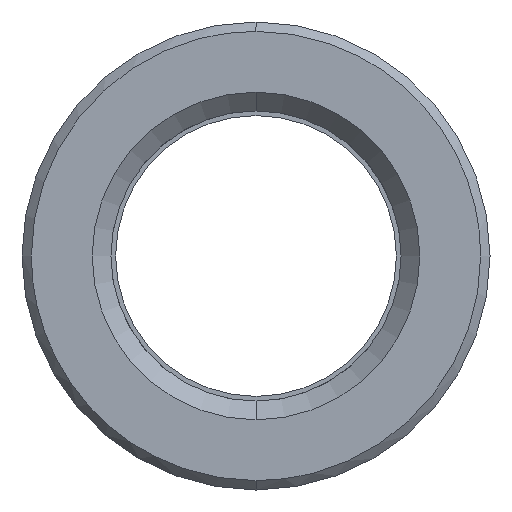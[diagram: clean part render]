
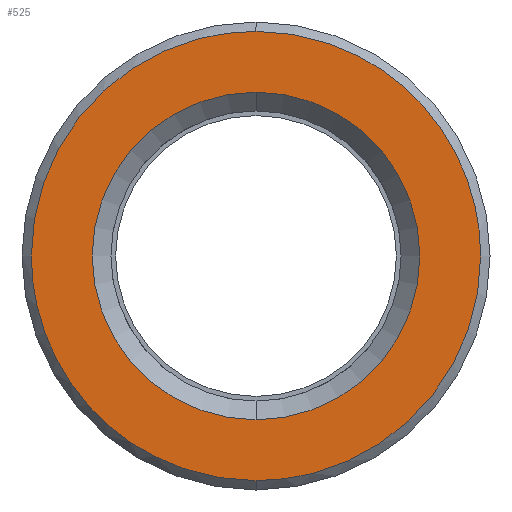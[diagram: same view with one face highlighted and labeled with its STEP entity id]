
A CAD part, left-side view. The second image highlights one B-rep face of the part: STEP entity #525.
In plain terms, the highlighted planar face has unit normal (-1, 0, 0).
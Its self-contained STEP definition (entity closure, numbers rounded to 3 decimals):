
#305=CARTESIAN_POINT('Axis2P3D Location',(0.,0.,0.)) ;
#309=CARTESIAN_POINT('Vertex',(0.,8.75,0.)) ;
#311=CARTESIAN_POINT('Vertex',(0.,0.,8.75)) ;
#314=CARTESIAN_POINT('Axis2P3D Location',(0.,0.,0.)) ;
#318=CARTESIAN_POINT('Vertex',(0.,0.,-8.75)) ;
#345=CARTESIAN_POINT('Axis2P3D Location',(0.,0.,0.)) ;
#349=CARTESIAN_POINT('Vertex',(0.,-8.75,0.)) ;
#352=CARTESIAN_POINT('Axis2P3D Location',(0.,0.,0.)) ;
#432=CARTESIAN_POINT('Axis2P3D Location',(0.,12.,0.)) ;
#438=CARTESIAN_POINT('Control Point',(0.,0.,-12.)) ;
#439=CARTESIAN_POINT('Control Point',(0.,0.982,-12.)) ;
#440=CARTESIAN_POINT('Control Point',(0.,1.964,-11.9)) ;
#441=CARTESIAN_POINT('Control Point',(0.,2.932,-11.699)) ;
#442=CARTESIAN_POINT('Control Point',(0.,5.011,-11.039)) ;
#443=CARTESIAN_POINT('Control Point',(0.,6.895,-9.93)) ;
#444=CARTESIAN_POINT('Control Point',(0.,7.845,-9.197)) ;
#445=CARTESIAN_POINT('Control Point',(0.,9.546,-7.512)) ;
#446=CARTESIAN_POINT('Control Point',(0.,10.784,-5.463)) ;
#447=CARTESIAN_POINT('Control Point',(0.,11.273,-4.367)) ;
#448=CARTESIAN_POINT('Control Point',(0.,11.741,-2.824)) ;
#449=CARTESIAN_POINT('Control Point',(0.,11.947,-1.236)) ;
#450=CARTESIAN_POINT('Control Point',(0.,11.982,-0.824)) ;
#451=CARTESIAN_POINT('Control Point',(0.,12.,-0.412)) ;
#452=CARTESIAN_POINT('Control Point',(0.,12.,0.)) ;
#453=CARTESIAN_POINT('Vertex',(0.,0.,-12.)) ;
#455=CARTESIAN_POINT('Vertex',(0.,12.,0.)) ;
#459=CARTESIAN_POINT('Control Point',(0.,-12.,0.)) ;
#460=CARTESIAN_POINT('Control Point',(0.,-12.,-1.188)) ;
#461=CARTESIAN_POINT('Control Point',(0.,-11.853,-2.376)) ;
#462=CARTESIAN_POINT('Control Point',(0.,-11.559,-3.54)) ;
#463=CARTESIAN_POINT('Control Point',(0.,-10.689,-5.77)) ;
#464=CARTESIAN_POINT('Control Point',(0.,-9.302,-7.721)) ;
#465=CARTESIAN_POINT('Control Point',(0.,-8.49,-8.605)) ;
#466=CARTESIAN_POINT('Control Point',(0.,-6.665,-10.155)) ;
#467=CARTESIAN_POINT('Control Point',(0.,-4.518,-11.213)) ;
#468=CARTESIAN_POINT('Control Point',(0.,-3.384,-11.606)) ;
#469=CARTESIAN_POINT('Control Point',(0.,-2.01,-11.897)) ;
#470=CARTESIAN_POINT('Control Point',(0.,-0.618,-11.987)) ;
#471=CARTESIAN_POINT('Control Point',(0.,-0.412,-11.996)) ;
#472=CARTESIAN_POINT('Control Point',(0.,-0.206,-12.)) ;
#473=CARTESIAN_POINT('Control Point',(0.,0.,-12.)) ;
#474=CARTESIAN_POINT('Vertex',(0.,-12.,0.)) ;
#478=CARTESIAN_POINT('Control Point',(0.,0.,12.)) ;
#479=CARTESIAN_POINT('Control Point',(0.,-0.982,12.)) ;
#480=CARTESIAN_POINT('Control Point',(0.,-1.964,11.9)) ;
#481=CARTESIAN_POINT('Control Point',(0.,-2.932,11.699)) ;
#482=CARTESIAN_POINT('Control Point',(0.,-5.011,11.039)) ;
#483=CARTESIAN_POINT('Control Point',(0.,-6.895,9.93)) ;
#484=CARTESIAN_POINT('Control Point',(0.,-7.845,9.197)) ;
#485=CARTESIAN_POINT('Control Point',(0.,-9.546,7.512)) ;
#486=CARTESIAN_POINT('Control Point',(0.,-10.784,5.463)) ;
#487=CARTESIAN_POINT('Control Point',(0.,-11.273,4.367)) ;
#488=CARTESIAN_POINT('Control Point',(0.,-11.741,2.824)) ;
#489=CARTESIAN_POINT('Control Point',(0.,-11.947,1.236)) ;
#490=CARTESIAN_POINT('Control Point',(0.,-11.982,0.824)) ;
#491=CARTESIAN_POINT('Control Point',(0.,-12.,0.412)) ;
#492=CARTESIAN_POINT('Control Point',(0.,-12.,0.)) ;
#493=CARTESIAN_POINT('Vertex',(0.,0.,12.)) ;
#497=CARTESIAN_POINT('Control Point',(0.,12.,0.)) ;
#498=CARTESIAN_POINT('Control Point',(0.,12.,1.188)) ;
#499=CARTESIAN_POINT('Control Point',(0.,11.853,2.376)) ;
#500=CARTESIAN_POINT('Control Point',(0.,11.559,3.54)) ;
#501=CARTESIAN_POINT('Control Point',(0.,10.689,5.77)) ;
#502=CARTESIAN_POINT('Control Point',(0.,9.302,7.721)) ;
#503=CARTESIAN_POINT('Control Point',(0.,8.49,8.605)) ;
#504=CARTESIAN_POINT('Control Point',(0.,6.665,10.155)) ;
#505=CARTESIAN_POINT('Control Point',(0.,4.518,11.213)) ;
#506=CARTESIAN_POINT('Control Point',(0.,3.384,11.606)) ;
#507=CARTESIAN_POINT('Control Point',(0.,2.01,11.897)) ;
#508=CARTESIAN_POINT('Control Point',(0.,0.618,11.987)) ;
#509=CARTESIAN_POINT('Control Point',(0.,0.412,11.996)) ;
#510=CARTESIAN_POINT('Control Point',(0.,0.206,12.)) ;
#511=CARTESIAN_POINT('Control Point',(0.,0.,12.)) ;
#306=DIRECTION('Axis2P3D Direction',(-1.,0.,0.)) ;
#315=DIRECTION('Axis2P3D Direction',(-1.,0.,0.)) ;
#346=DIRECTION('Axis2P3D Direction',(-1.,0.,0.)) ;
#353=DIRECTION('Axis2P3D Direction',(-1.,0.,0.)) ;
#433=DIRECTION('Axis2P3D Direction',(-1.,0.,0.)) ;
#434=DIRECTION('Axis2P3D XDirection',(0.,0.,1.)) ;
#307=AXIS2_PLACEMENT_3D('Circle Axis2P3D',#305,#306,$) ;
#316=AXIS2_PLACEMENT_3D('Circle Axis2P3D',#314,#315,$) ;
#347=AXIS2_PLACEMENT_3D('Circle Axis2P3D',#345,#346,$) ;
#354=AXIS2_PLACEMENT_3D('Circle Axis2P3D',#352,#353,$) ;
#435=AXIS2_PLACEMENT_3D('Plane Axis2P3D',#432,#433,#434) ;
#514=ORIENTED_EDGE('',*,*,#457,.F.) ;
#515=ORIENTED_EDGE('',*,*,#476,.F.) ;
#516=ORIENTED_EDGE('',*,*,#495,.F.) ;
#517=ORIENTED_EDGE('',*,*,#512,.F.) ;
#520=ORIENTED_EDGE('',*,*,#313,.T.) ;
#521=ORIENTED_EDGE('',*,*,#356,.T.) ;
#522=ORIENTED_EDGE('',*,*,#351,.T.) ;
#523=ORIENTED_EDGE('',*,*,#320,.T.) ;
#524=FACE_BOUND('',#519,.T.) ;
#525=ADVANCED_FACE('553-15X76',(#518,#524),#436,.T.) ;
#437=B_SPLINE_CURVE_WITH_KNOTS('',5,(#438,#439,#440,#441,#442,#443,#444,#445,#446,#447,#448,#449,#450,#451,#452),.UNSPECIFIED.,.F.,.U.,(6,3,3,3,6),(26.657,33.6,42.,50.399,53.312),.UNSPECIFIED.) ;
#458=B_SPLINE_CURVE_WITH_KNOTS('',5,(#459,#460,#461,#462,#463,#464,#465,#466,#467,#468,#469,#470,#471,#472,#473),.UNSPECIFIED.,.F.,.U.,(6,3,3,3,6),(0.,8.4,16.8,25.2,26.657),.UNSPECIFIED.) ;
#477=B_SPLINE_CURVE_WITH_KNOTS('',5,(#478,#479,#480,#481,#482,#483,#484,#485,#486,#487,#488,#489,#490,#491,#492),.UNSPECIFIED.,.F.,.U.,(6,3,3,3,6),(26.657,33.6,42.,50.399,53.312),.UNSPECIFIED.) ;
#496=B_SPLINE_CURVE_WITH_KNOTS('',5,(#497,#498,#499,#500,#501,#502,#503,#504,#505,#506,#507,#508,#509,#510,#511),.UNSPECIFIED.,.F.,.U.,(6,3,3,3,6),(0.,8.4,16.8,25.2,26.657),.UNSPECIFIED.) ;
#308=CIRCLE('generated circle',#307,8.75) ;
#317=CIRCLE('generated circle',#316,8.75) ;
#348=CIRCLE('generated circle',#347,8.75) ;
#355=CIRCLE('generated circle',#354,8.75) ;
#313=EDGE_CURVE('',#310,#312,#308,.F.) ;
#320=EDGE_CURVE('',#319,#310,#317,.F.) ;
#351=EDGE_CURVE('',#350,#319,#348,.F.) ;
#356=EDGE_CURVE('',#312,#350,#355,.F.) ;
#457=EDGE_CURVE('',#454,#456,#437,.T.) ;
#476=EDGE_CURVE('',#475,#454,#458,.T.) ;
#495=EDGE_CURVE('',#494,#475,#477,.T.) ;
#512=EDGE_CURVE('',#456,#494,#496,.T.) ;
#513=EDGE_LOOP('',(#514,#515,#516,#517)) ;
#519=EDGE_LOOP('',(#520,#521,#522,#523)) ;
#518=FACE_OUTER_BOUND('',#513,.T.) ;
#436=PLANE('Plane',#435) ;
#310=VERTEX_POINT('',#309) ;
#312=VERTEX_POINT('',#311) ;
#319=VERTEX_POINT('',#318) ;
#350=VERTEX_POINT('',#349) ;
#454=VERTEX_POINT('',#453) ;
#456=VERTEX_POINT('',#455) ;
#475=VERTEX_POINT('',#474) ;
#494=VERTEX_POINT('',#493) ;
